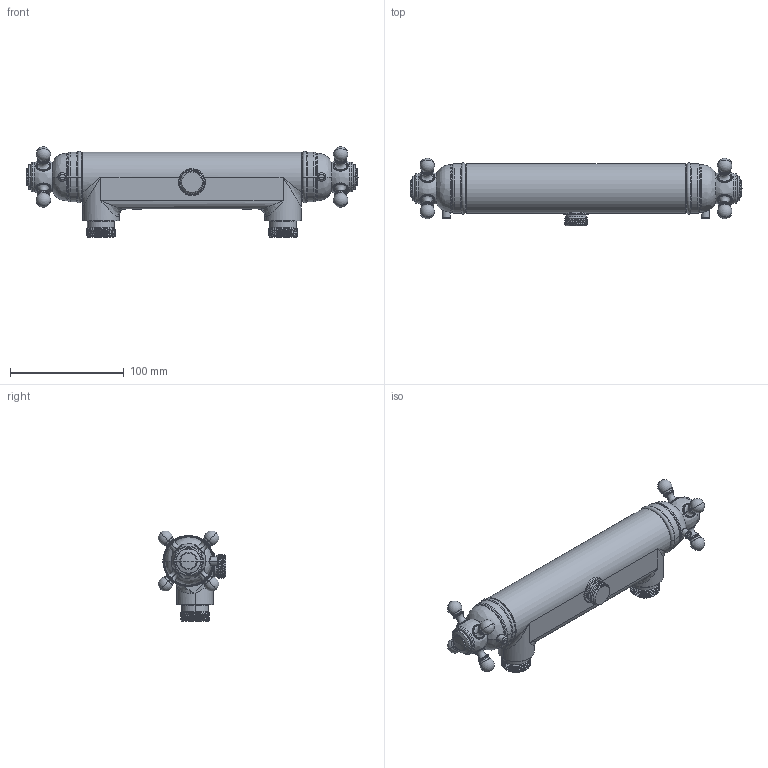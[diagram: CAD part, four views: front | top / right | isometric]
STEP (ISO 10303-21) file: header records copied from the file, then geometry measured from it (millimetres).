
FILE_DESCRIPTION((''),'2;1');
FILE_NAME('37483--00_SW0001','2026-10-01T14:47:58',('simi1'),(''),'CREO PARAMETRIC BY PTC INC, 2022244','CREO PARAMETRIC BY PTC INC, 2022244','');
FILE_SCHEMA(('CONFIG_CONTROL_DESIGN'));
Length unit declared in the file: millimetre
Products named in the file (1): 37483--00_SW0001
Bounding box: 291.6 x 59.36 x 79.51 mm (x, y, z)
Surface area: 59924.2 mm2 (no closed solid volume)
Topology: 0 solids, 22 shells, 345 faces, 794 edges, 437 vertices
Faces by surface type: torus 132, bspline 77, cylinder 62, cone 30, sphere 24, plane 20
Entity records: 20105 total; most frequent: CARTESIAN_POINT 12816, DIRECTION 1609, ORIENTED_EDGE 1460, EDGE_CURVE 770, AXIS2_PLACEMENT_3D 749, CIRCLE 481, VERTEX_POINT 437, EDGE_LOOP 345
